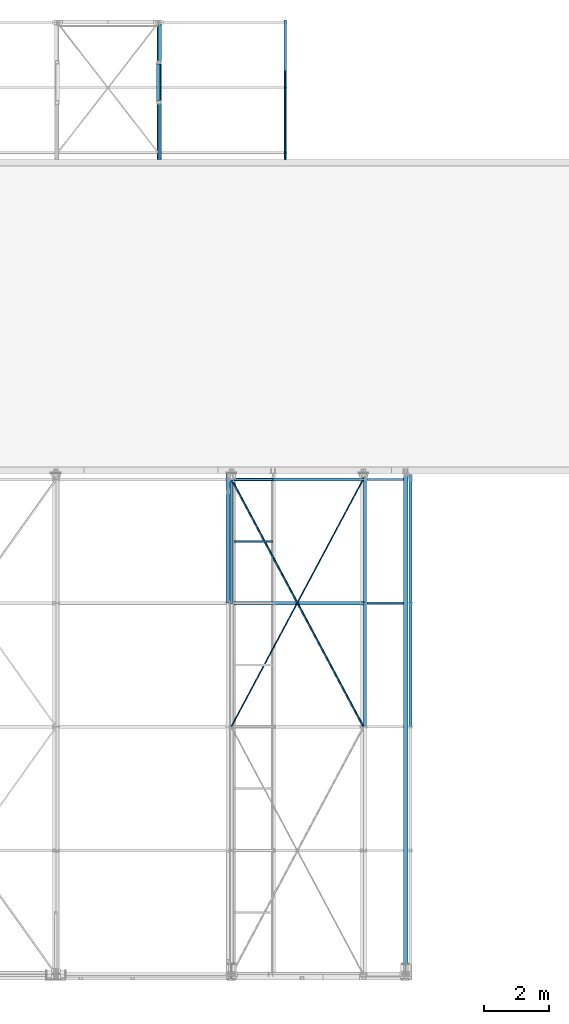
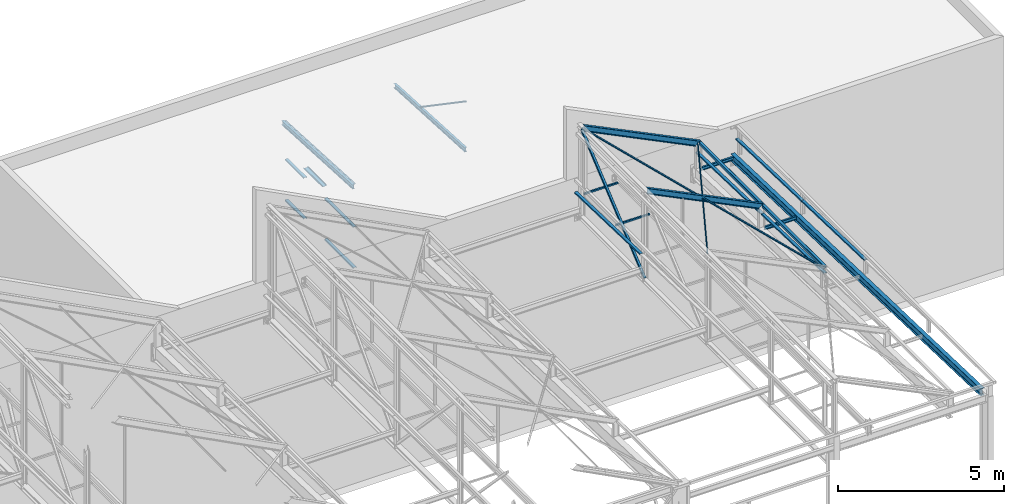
# One storey, part 37 of 123: 24 beams, 4 members, 28 elements without a shape of their own.
"""IFC2X3 building model written with IfcOpenShell, lengths in millimetres."""

from ifc_helpers import new_model, si_unit, frame, origin_with_axes, origin_2d_with_axis, place, context, subcontext, project, spatial, hollow_rectangle, hollow_circle, i_section, l_section, u_section, extrude, clip, halfspace, material, type_object, element, aggregate, save


model = new_model("IFC2X3")

# Units and contexts
model_context = context("Model", 3, precision=1e-05, world=origin_with_axes())
body_context = subcontext(model_context, "Body", "Model", "MODEL_VIEW")
ifc_project = project(units=[si_unit("LENGTHUNIT", "METRE", prefix="MILLI"), si_unit("AREAUNIT", "SQUARE_METRE"), si_unit("VOLUMEUNIT", "CUBIC_METRE"), si_unit("MASSUNIT", "GRAM", prefix="KILO"), si_unit("TIMEUNIT", "SECOND"), si_unit("PLANEANGLEUNIT", "RADIAN"), si_unit("SOLIDANGLEUNIT", "STERADIAN"), si_unit("THERMODYNAMICTEMPERATUREUNIT", "DEGREE_CELSIUS"), si_unit("LUMINOUSINTENSITYUNIT", "LUMEN")], contexts=[model_context])

# Site, building, storey
site_placement = place(None, origin_with_axes())
site = spatial("IfcSite", under=ifc_project, at=site_placement, Name="Undefined", CompositionType="ELEMENT")
building_placement = place(site_placement, origin_with_axes())
building = spatial("IfcBuilding", under=site, at=building_placement, Name="Undefined", CompositionType="ELEMENT")
storey_placement = place(building_placement, origin_with_axes())
storey = spatial("IfcBuildingStorey", under=building, at=storey_placement, Name="Undefined", CompositionType="ELEMENT", Elevation=0.0)

# Assembly, beam
assembly_1_placement = place(storey_placement, origin_with_axes())
assembly_1 = element("IfcElementAssembly", 1, at=assembly_1_placement, inside=storey, Name="Steel Assembly", AssemblyPlace="NOTDEFINED", PredefinedType="RIGID_FRAME")
ifc_material_1 = material(Name="STEEL/S235-E24")
beam_type_1 = type_object("IfcBeamType", Name="UPF-100*50*4", PredefinedType="NOTDEFINED")
beam_1_placement = place(assembly_1_placement, frame((39775.0000000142, 11400.0, 8171.98873515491), z_axis=(1.0, 0.0, 0.0), x_axis=(0.0, 0.999506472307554, -0.0314135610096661)))
beam_1 = element("IfcBeam", 2, at=beam_1_placement, type_object=beam_type_1, material=ifc_material_1, Name="LISSE CONTREBARDAGE", ObjectType="UPF-100*50*4", context=body_context, shape_type="Clipping", body=[
    clip(extrude(u_section(Depth=100.0, FlangeWidth=50.0, WebThickness=4.0, FlangeThickness=4.0, at=origin_2d_with_axis()), frame((3991.97014790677, 0.0, 0.0), z_axis=(-1.0, 0.0, 0.0), x_axis=(0.0, -1.0, 0.0)), (0.0, 0.0, 1.0), 3992.0), halfspace(frame((3962.74106143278, -25.0, 50.0), z_axis=(0.999506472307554, 0.0314135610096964, 0.0), x_axis=(0.0, 0.0, 1.0)), False)),
])
aggregate(assembly_1, [beam_1])

assembly_2_placement = place(storey_placement, origin_with_axes())
assembly_2 = element("IfcElementAssembly", 3, at=assembly_2_placement, inside=storey, Name="Steel Assembly", AssemblyPlace="NOTDEFINED", PredefinedType="RIGID_FRAME")
beam_2_placement = place(assembly_2_placement, frame((39775.0000000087, 7600.0, 8291.42237510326), z_axis=(1.0, 0.0, 0.0), x_axis=(0.0, 0.999506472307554, -0.0314135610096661)))
beam_2 = element("IfcBeam", 4, at=beam_2_placement, type_object=beam_type_1, material=ifc_material_1, Name="LISSE CONTREBARDAGE", ObjectType="UPF-100*50*4", context=body_context, shape_type="SweptSolid", body=[
    extrude(u_section(Depth=100.0, FlangeWidth=50.0, WebThickness=4.0, FlangeThickness=4.0, at=origin_2d_with_axis()), frame((3801.87643069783, 2.63808171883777e-14, 0.0), z_axis=(-1.0, 0.0, 0.0), x_axis=(0.0, -1.0, 0.0)), (0.0, 0.0, 1.0), 3801.9),
])
aggregate(assembly_2, [beam_2])

assembly_3_placement = place(storey_placement, origin_with_axes())
assembly_3 = element("IfcElementAssembly", 5, at=assembly_3_placement, inside=storey, Name="Steel Assembly", AssemblyPlace="NOTDEFINED", PredefinedType="RIGID_FRAME")
beam_3_placement = place(assembly_3_placement, frame((34163.5000000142, 11400.0, 8171.98873515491), z_axis=(1.0, 0.0, 0.0), x_axis=(0.0, 0.999506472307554, -0.0314135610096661)))
beam_3 = element("IfcBeam", 6, at=beam_3_placement, type_object=beam_type_1, material=ifc_material_1, Name="LISSE CONTREBARDAGE", ObjectType="UPF-100*50*4", context=body_context, shape_type="Clipping", body=[
    clip(extrude(u_section(Depth=100.0, FlangeWidth=50.0, WebThickness=4.0, FlangeThickness=4.0, at=origin_2d_with_axis()), frame((3991.97014790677, 0.0, 0.0), z_axis=(-1.0, 0.0, 0.0), x_axis=(0.0, -1.0, 0.0)), (0.0, 0.0, 1.0), 3992.0), halfspace(frame((3962.74106203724, -25.0, -50.0), z_axis=(0.999506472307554, 0.0314135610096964, 0.0), x_axis=(0.0, 0.0, 1.0)), False)),
])
aggregate(assembly_3, [beam_3])

assembly_4_placement = place(storey_placement, origin_with_axes())
assembly_4 = element("IfcElementAssembly", 7, at=assembly_4_placement, inside=storey, Name="Steel Assembly", AssemblyPlace="NOTDEFINED", PredefinedType="RIGID_FRAME")
beam_4_placement = place(assembly_4_placement, frame((38380.0000000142, 11400.0, 8171.98873515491), z_axis=(1.0, 0.0, 0.0), x_axis=(0.0, 0.999506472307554, -0.0314135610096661)))
beam_4 = element("IfcBeam", 8, at=beam_4_placement, type_object=beam_type_1, material=ifc_material_1, Name="LISSE CONTREBARDAGE", ObjectType="UPF-100*50*4", context=body_context, shape_type="Clipping", body=[
    clip(extrude(u_section(Depth=100.0, FlangeWidth=50.0, WebThickness=4.0, FlangeThickness=4.0, at=origin_2d_with_axis()), frame((3991.97014790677, 0.0, 0.0), z_axis=(-1.0, 0.0, 0.0), x_axis=(0.0, -1.0, 0.0)), (0.0, 0.0, 1.0), 3992.0), halfspace(frame((3962.74106203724, -25.0, -50.0), z_axis=(0.999506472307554, 0.0314135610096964, 0.0), x_axis=(0.0, 0.0, 1.0)), False)),
])
aggregate(assembly_4, [beam_4])

assembly_5_placement = place(storey_placement, origin_with_axes())
assembly_5 = element("IfcElementAssembly", 9, at=assembly_5_placement, inside=storey, Name="Steel Assembly", AssemblyPlace="NOTDEFINED", PredefinedType="RIGID_FRAME")
beam_5_placement = place(assembly_5_placement, frame((38380.0000000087, 7600.0, 8291.42237510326), z_axis=(1.0, 0.0, 0.0), x_axis=(0.0, 0.999506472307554, -0.0314135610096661)))
beam_5 = element("IfcBeam", 10, at=beam_5_placement, type_object=beam_type_1, material=ifc_material_1, Name="LISSE CONTREBARDAGE", ObjectType="UPF-100*50*4", context=body_context, shape_type="SweptSolid", body=[
    extrude(u_section(Depth=100.0, FlangeWidth=50.0, WebThickness=4.0, FlangeThickness=4.0, at=origin_2d_with_axis()), frame((3801.87643069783, 2.63808171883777e-14, 0.0), z_axis=(-1.0, 0.0, 0.0), x_axis=(0.0, -1.0, 0.0)), (0.0, 0.0, 1.0), 3801.9),
])
aggregate(assembly_5, [beam_5])

assembly_6_placement = place(storey_placement, origin_with_axes())
assembly_6 = element("IfcElementAssembly", 11, at=assembly_6_placement, inside=storey, Name="Steel Assembly", AssemblyPlace="NOTDEFINED", PredefinedType="RIGID_FRAME")
beam_6_placement = place(assembly_6_placement, frame((32069.9999688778, 28019.9999782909, 1625.0), z_axis=(1.0, 0.0, 0.0), x_axis=(0.0, 1.0, 0.0)))
beam_6 = element("IfcBeam", 12, at=beam_6_placement, type_object=beam_type_1, material=ifc_material_1, Name="LISSE", ObjectType="UPF-100*50*4", context=body_context, shape_type="SweptSolid", body=[
    extrude(u_section(Depth=100.0, FlangeWidth=50.0, WebThickness=4.0, FlangeThickness=4.0, at=origin_2d_with_axis()), frame((1140.00004341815, 0.0, 0.0), z_axis=(-1.0, 0.0, 0.0), x_axis=(0.0, -1.0, 0.0)), (0.0, 0.0, 1.0), 1140.0),
])
aggregate(assembly_6, [beam_6])

assembly_7_placement = place(storey_placement, origin_with_axes())
assembly_7 = element("IfcElementAssembly", 13, at=assembly_7_placement, inside=storey, Name="Steel Assembly", AssemblyPlace="NOTDEFINED", PredefinedType="RIGID_FRAME")
beam_7_placement = place(assembly_7_placement, frame((32069.9999688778, 25040.0, 1625.0), z_axis=(1.0, 0.0, 0.0), x_axis=(0.0, 1.0, 0.0)))
beam_7 = element("IfcBeam", 14, at=beam_7_placement, type_object=beam_type_1, material=ifc_material_1, Name="LISSE", ObjectType="UPF-100*50*4", context=body_context, shape_type="SweptSolid", body=[
    extrude(u_section(Depth=100.0, FlangeWidth=50.0, WebThickness=4.0, FlangeThickness=4.0, at=origin_2d_with_axis()), frame((1750.00002170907, 0.0, 0.0), z_axis=(-1.0, 0.0, 0.0), x_axis=(0.0, -1.0, 0.0)), (0.0, 0.0, 1.0), 1750.0),
])
aggregate(assembly_7, [beam_7])

assembly_8_placement = place(storey_placement, origin_with_axes())
assembly_8 = element("IfcElementAssembly", 15, at=assembly_8_placement, inside=storey, Name="Steel Assembly", AssemblyPlace="NOTDEFINED", PredefinedType="RIGID_FRAME")
beam_8_placement = place(assembly_8_placement, frame((32069.9999688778, 28019.9999782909, 124.999999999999), z_axis=(1.0, 0.0, 0.0), x_axis=(0.0, 1.0, 0.0)))
beam_8 = element("IfcBeam", 16, at=beam_8_placement, type_object=beam_type_1, material=ifc_material_1, Name="LISSE", ObjectType="UPF-100*50*4", context=body_context, shape_type="SweptSolid", body=[
    extrude(u_section(Depth=100.0, FlangeWidth=50.0, WebThickness=4.0, FlangeThickness=4.0, at=origin_2d_with_axis()), frame((1140.00004341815, 0.0, 0.0), z_axis=(-1.0, 0.0, 0.0), x_axis=(0.0, -1.0, 0.0)), (0.0, 0.0, 1.0), 1140.0),
])
aggregate(assembly_8, [beam_8])

assembly_9_placement = place(storey_placement, origin_with_axes())
assembly_9 = element("IfcElementAssembly", 17, at=assembly_9_placement, inside=storey, Name="Steel Assembly", AssemblyPlace="NOTDEFINED", PredefinedType="RIGID_FRAME")
beam_9_placement = place(assembly_9_placement, frame((32069.9999688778, 25040.0, 124.999999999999), z_axis=(1.0, 0.0, 0.0), x_axis=(0.0, 1.0, 0.0)))
beam_9 = element("IfcBeam", 18, at=beam_9_placement, type_object=beam_type_1, material=ifc_material_1, Name="LISSE", ObjectType="UPF-100*50*4", context=body_context, shape_type="SweptSolid", body=[
    extrude(u_section(Depth=100.0, FlangeWidth=50.0, WebThickness=4.0, FlangeThickness=4.0, at=origin_2d_with_axis()), frame((1750.00002170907, 0.0, 0.0), z_axis=(-1.0, 0.0, 0.0), x_axis=(0.0, -1.0, 0.0)), (0.0, 0.0, 1.0), 1750.0),
])
aggregate(assembly_9, [beam_9])

assembly_10_placement = place(storey_placement, origin_with_axes())
assembly_10 = element("IfcElementAssembly", 19, at=assembly_10_placement, inside=storey, Name="Steel Assembly", AssemblyPlace="NOTDEFINED", PredefinedType="RIGID_FRAME")
beam_10_placement = place(assembly_10_placement, frame((39775.0000000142, 11399.6436312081, 8171.98873515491), z_axis=(1.0, 0.0, 0.0), x_axis=(0.0, 0.999506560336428, -0.0314107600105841)))
beam_10 = element("IfcBeam", 20, at=beam_10_placement, type_object=beam_type_1, material=ifc_material_1, Name="LISSE CONTREBARDAGE", ObjectType="UPF-100*50*4", context=body_context, shape_type="Clipping", body=[
    clip(extrude(u_section(Depth=100.0, FlangeWidth=50.0, WebThickness=4.0, FlangeThickness=4.0, at=origin_2d_with_axis()), frame((3964.88100373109, 0.0, 0.0), z_axis=(-1.0, 0.0, 0.0), x_axis=(0.0, -1.0, 0.0)), (0.0, 0.0, 1.0), 3964.9), halfspace(frame((3960.76719072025, 47.1525613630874, -77.5000000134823), z_axis=(-0.999390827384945, -0.0348994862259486, 0.0), x_axis=(0.0, 0.0, 1.0)), True)),
])
aggregate(assembly_10, [beam_10])

assembly_11_placement = place(storey_placement, origin_with_axes())
assembly_11 = element("IfcElementAssembly", 21, at=assembly_11_placement, inside=storey, Name="Steel Assembly", AssemblyPlace="NOTDEFINED", PredefinedType="RIGID_FRAME")
beam_11_placement = place(assembly_11_placement, frame((39775.0000000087, 7599.20357783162, 8291.42237510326), z_axis=(1.0, 0.0, 0.0), x_axis=(0.0, 0.999506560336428, -0.0314107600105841)))
beam_11 = element("IfcBeam", 22, at=beam_11_placement, type_object=beam_type_1, material=ifc_material_1, Name="LISSE CONTREBARDAGE", ObjectType="UPF-100*50*4", context=body_context, shape_type="SweptSolid", body=[
    extrude(u_section(Depth=100.0, FlangeWidth=50.0, WebThickness=4.0, FlangeThickness=4.0, at=origin_2d_with_axis()), frame((3802.31626691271, 0.0, 0.0), z_axis=(-1.0, 0.0, 0.0), x_axis=(0.0, -1.0, 0.0)), (0.0, 0.0, 1.0), 3802.3),
])
aggregate(assembly_11, [beam_11])

assembly_12_placement = place(storey_placement, origin_with_axes())
assembly_12 = element("IfcElementAssembly", 23, at=assembly_12_placement, inside=storey, Name="Steel Assembly", AssemblyPlace="NOTDEFINED", PredefinedType="RIGID_FRAME")
beam_type_2 = type_object("IfcBeamType", Name="TUBE-C-60*60*3", PredefinedType="NOTDEFINED")
beam_12_placement = place(assembly_12_placement, frame((34351.5001701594, 13300.0, 8015.0), z_axis=(0.0, -1.0, 0.0), x_axis=(1.0, 0.0, 0.0)))
beam_12 = element("IfcBeam", 24, at=beam_12_placement, type_object=beam_type_2, material=ifc_material_1, Name="SOLIVE", ObjectType="TUBE-C-60*60*3", context=body_context, shape_type="SweptSolid", body=[
    extrude(hollow_rectangle(XDim=60.0, YDim=60.0, WallThickness=3.0, InnerFilletRadius=3.0, OuterFilletRadius=6.0, at=origin_2d_with_axis()), frame((1194.99154388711, 0.0, 0.0), z_axis=(-1.0, 0.0, 0.0), x_axis=(0.0, -1.0, 0.0)), (0.0, 0.0, 1.0), 1195.0),
])
aggregate(assembly_12, [beam_12])

assembly_13_placement = place(storey_placement, origin_with_axes())
assembly_13 = element("IfcElementAssembly", 25, at=assembly_13_placement, inside=storey, Name="Steel Assembly", AssemblyPlace="NOTDEFINED", PredefinedType="RIGID_FRAME")
beam_13_placement = place(assembly_13_placement, frame((34351.5001701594, 15200.0, 8015.0), z_axis=(0.0, -1.0, 0.0), x_axis=(1.0, 0.0, 0.0)))
beam_13 = element("IfcBeam", 26, at=beam_13_placement, type_object=beam_type_2, material=ifc_material_1, Name="SOLIVE", ObjectType="TUBE-C-60*60*3", context=body_context, shape_type="SweptSolid", body=[
    extrude(hollow_rectangle(XDim=60.0, YDim=60.0, WallThickness=3.0, InnerFilletRadius=3.0, OuterFilletRadius=6.0, at=origin_2d_with_axis()), frame((1194.99154388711, 0.0, 0.0), z_axis=(-1.0, 0.0, 0.0), x_axis=(0.0, -1.0, 0.0)), (0.0, 0.0, 1.0), 1195.0),
])
aggregate(assembly_13, [beam_13])

assembly_14_placement = place(storey_placement, origin_with_axes())
assembly_14 = element("IfcElementAssembly", 27, at=assembly_14_placement, inside=storey, Name="Steel Assembly", AssemblyPlace="NOTDEFINED", PredefinedType="RIGID_FRAME")
beam_type_3 = type_object("IfcBeamType", Name="TUBE-C-100*100*4", PredefinedType="NOTDEFINED")
beam_14_placement = place(assembly_14_placement, frame((38380.0, 11446.0, 8500.0), z_axis=(0.0, 0.0, 1.0), x_axis=(0.0, 1.0, 0.0)))
beam_14 = element("IfcBeam", 28, at=beam_14_placement, type_object=beam_type_3, material=ifc_material_1, Name="LISSE ACROTERE", ObjectType="TUBE-C-100*100*4", context=body_context, shape_type="SweptSolid", body=[
    extrude(hollow_rectangle(XDim=100.0, YDim=100.0, WallThickness=4.0, InnerFilletRadius=4.0, OuterFilletRadius=8.0, at=origin_2d_with_axis()), frame((3708.0, 0.0, 0.0), z_axis=(-1.0, 0.0, 0.0), x_axis=(0.0, -1.0, 0.0)), (0.0, 0.0, 1.0), 3708.0),
])
aggregate(assembly_14, [beam_14])

assembly_15_placement = place(storey_placement, origin_with_axes())
assembly_15 = element("IfcElementAssembly", 29, at=assembly_15_placement, inside=storey, Name="Steel Assembly", AssemblyPlace="NOTDEFINED", PredefinedType="RIGID_FRAME")
beam_15_placement = place(assembly_15_placement, frame((38380.0, 7646.0, 8500.0), z_axis=(0.0, 0.0, 1.0), x_axis=(0.0, 1.0, 0.0)))
beam_15 = element("IfcBeam", 30, at=beam_15_placement, type_object=beam_type_3, material=ifc_material_1, Name="LISSE ACROTERE", ObjectType="TUBE-C-100*100*4", context=body_context, shape_type="SweptSolid", body=[
    extrude(hollow_rectangle(XDim=100.0, YDim=100.0, WallThickness=4.0, InnerFilletRadius=4.0, OuterFilletRadius=8.0, at=origin_2d_with_axis()), frame((3708.0, 0.0, 0.0), z_axis=(-1.0, 0.0, 0.0), x_axis=(0.0, -1.0, 0.0)), (0.0, 0.0, 1.0), 3708.0),
])
aggregate(assembly_15, [beam_15])

# Assembly, member
assembly_16_placement = place(storey_placement, origin_with_axes())
assembly_16 = element("IfcElementAssembly", 31, at=assembly_16_placement, inside=storey, Name="Steel Assembly", AssemblyPlace="NOTDEFINED", PredefinedType="RIGID_FRAME")
member_type_1 = type_object("IfcMemberType", Name="TUBE-C-80*80*4", PredefinedType="NOTDEFINED")
member_1_placement = place(assembly_16_placement, frame((34280.0000000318, 15200.0000000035, 10423.0), z_axis=(-1.0, 0.0, 0.0), x_axis=(0.0, -0.767591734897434, -0.640939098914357)))
member_1 = element("IfcMember", 32, at=member_1_placement, type_object=member_type_1, material=ifc_material_1, Name="DIAGONALE", ObjectType="TUBE-C-80*80*4", context=body_context, shape_type="SweptSolid", body=[
    extrude(hollow_rectangle(XDim=80.0, YDim=80.0, WallThickness=4.0, InnerFilletRadius=4.0, OuterFilletRadius=8.0, at=origin_2d_with_axis()), frame((4950.5483534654, 0.0, 0.0), z_axis=(-1.0, 0.0, 0.0), x_axis=(0.0, -1.0, 0.0)), (0.0, 0.0, 1.0), 4950.5),
])
aggregate(assembly_16, [member_1])

# Assembly, beam
assembly_17_placement = place(storey_placement, origin_with_axes())
assembly_17 = element("IfcElementAssembly", 33, at=assembly_17_placement, inside=storey, Name="Steel Assembly", AssemblyPlace="NOTDEFINED", PredefinedType="RIGID_FRAME")
beam_type_4 = type_object("IfcBeamType", Name="UPF-150*50*5", PredefinedType="NOTDEFINED")
beam_16_placement = place(assembly_17_placement, frame((32044.9999688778, 26840.0000217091, 2065.0), z_axis=(-1.0, 0.0, 0.0), x_axis=(0.0, 1.0, 0.0)))
beam_16 = element("IfcBeam", 34, at=beam_16_placement, type_object=beam_type_4, material=ifc_material_1, Name="LINTEAU", ObjectType="UPF-150*50*5", context=body_context, shape_type="SweptSolid", body=[
    extrude(u_section(Depth=150.0, FlangeWidth=50.0, WebThickness=5.0, FlangeThickness=5.0, at=origin_2d_with_axis()), frame((1129.99995658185, 0.0, 0.0), z_axis=(-1.0, 0.0, 0.0), x_axis=(0.0, -1.0, 0.0)), (0.0, 0.0, 1.0), 1130.0),
])
aggregate(assembly_17, [beam_16])

assembly_18_placement = place(storey_placement, origin_with_axes())
assembly_18 = element("IfcElementAssembly", 35, at=assembly_18_placement, inside=storey, Name="Steel Assembly", AssemblyPlace="NOTDEFINED", PredefinedType="RIGID_FRAME")
beam_type_5 = type_object("IfcBeamType", Name="L40*4", PredefinedType="NOTDEFINED")
beam_17_placement = place(assembly_18_placement, frame((32099.9999688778, 25076.6562852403, 3178.05248439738), z_axis=(0.0, -0.052309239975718, -0.99863093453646), x_axis=(0.0, 0.998630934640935, -0.0523092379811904)))
beam_17 = element("IfcBeam", 36, at=beam_17_placement, type_object=beam_type_5, material=ifc_material_1, Name="STABILITE CVT", ObjectType="L40*4", context=body_context, shape_type="SweptSolid", body=[
    extrude(l_section(Depth=40.0, Width=40.0, Thickness=4.0, FilletRadius=6.0, EdgeRadius=3.0, at=origin_2d_with_axis()), frame((4200.00376909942, 0.0, -2.91433805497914e-14), z_axis=(-1.0, 0.0, 0.0), x_axis=(0.0, -1.0, 0.0)), (0.0, 0.0, 1.0), 4200.0),
])
aggregate(assembly_18, [beam_17])

# Assembly, member
assembly_19_placement = place(storey_placement, origin_with_axes())
assembly_19 = element("IfcElementAssembly", 37, at=assembly_19_placement, inside=storey, Name="Steel Assembly", AssemblyPlace="NOTDEFINED", PredefinedType="RIGID_FRAME")
member_type_2 = type_object("IfcMemberType", Name="TUBE-60.3*3.2", PredefinedType="NOTDEFINED")
member_2_placement = place(assembly_19_placement, frame((35930.0000002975, 25039.9999999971, 4900.0), z_axis=(-1.0, 0.0, 0.0), x_axis=(0.0, 0.826153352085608, -0.563445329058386)))
member_2 = element("IfcMember", 38, at=member_2_placement, type_object=member_type_2, material=ifc_material_1, Name="BUTON", ObjectType="TUBE-60.3*3.2", context=body_context, shape_type="SweptSolid", body=[
    extrude(hollow_circle(Radius=30.14999962, WallThickness=3.200000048, at=origin_2d_with_axis()), frame((3268.15837953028, 0.0, 0.0), z_axis=(-1.0, 0.0, 0.0), x_axis=(0.0, -1.0, 0.0)), (0.0, 0.0, 1.0), 3268.2),
])
aggregate(assembly_19, [member_2])

# Assembly, beam
assembly_20_placement = place(storey_placement, origin_with_axes())
assembly_20 = element("IfcElementAssembly", 39, at=assembly_20_placement, inside=storey, Name="Steel Assembly", AssemblyPlace="NOTDEFINED", PredefinedType="RIGID_FRAME")
ifc_material_2 = material(Name="STEEL/S275-E28")
beam_type_6 = type_object("IfcBeamType", Name="IPE160", PredefinedType="NOTDEFINED")
beam_18_placement = place(assembly_20_placement, frame((35930.0000002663, 25035.8151340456, 3120.10952522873), z_axis=(0.0, 0.0523092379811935, 0.998630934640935), x_axis=(0.0, 0.998630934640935, -0.0523092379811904)))
beam_18 = element("IfcBeam", 40, at=beam_18_placement, type_object=beam_type_6, material=ifc_material_2, Name="TRAVERSE", ObjectType="IPE160", context=body_context, shape_type="Clipping", body=[
    clip(clip(extrude(i_section(OverallWidth=82.0, OverallDepth=160.0, WebThickness=5.0, FlangeThickness=7.400000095, FilletRadius=9.0, at=origin_2d_with_axis()), frame((4298.52302074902, 3.63797880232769e-12, 0.0), z_axis=(-1.0, 0.0, 0.0), x_axis=(0.0, -1.0, 0.0)), (0.0, 0.0, 1.0), 4302.8), halfspace(frame((4294.24873399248, 1.79522248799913e-06, -79.9999999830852), z_axis=(-0.998630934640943, -9.58451038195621e-12, -0.0523092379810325), x_axis=(0.0, -1.0, 0.0)), True)), halfspace(frame((5.37601310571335, -4.00323187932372e-08, -22.6329802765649), z_axis=(-0.998630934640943, -9.58451038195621e-12, -0.0523092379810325), x_axis=(0.0, -1.0, 0.0)), False)),
])
aggregate(assembly_20, [beam_18])

assembly_21_placement = place(storey_placement, origin_with_axes())
assembly_21 = element("IfcElementAssembly", 41, at=assembly_21_placement, inside=storey, Name="Steel Assembly", AssemblyPlace="NOTDEFINED", PredefinedType="RIGID_FRAME")
beam_19_placement = place(assembly_21_placement, frame((32030.0000002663, 25035.8151340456, 3120.10952522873), z_axis=(0.0, 0.0523092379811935, 0.998630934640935), x_axis=(0.0, 0.998630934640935, -0.0523092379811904)))
beam_19 = element("IfcBeam", 42, at=beam_19_placement, type_object=beam_type_6, material=ifc_material_2, Name="TRAVERSE", ObjectType="IPE160", context=body_context, shape_type="Clipping", body=[
    clip(clip(extrude(i_section(OverallWidth=82.0, OverallDepth=160.0, WebThickness=5.0, FlangeThickness=7.400000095, FilletRadius=9.0, at=origin_2d_with_axis()), frame((4298.52302074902, 3.63797880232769e-12, 0.0), z_axis=(-1.0, 0.0, 0.0), x_axis=(0.0, -1.0, 0.0)), (0.0, 0.0, 1.0), 4302.8), halfspace(frame((4294.24873399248, 1.79522248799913e-06, -79.9999999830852), z_axis=(-0.998630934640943, -9.58451038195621e-12, -0.0523092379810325), x_axis=(0.0, -1.0, 0.0)), True)), halfspace(frame((5.37601310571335, -4.00323187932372e-08, -22.6329802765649), z_axis=(-0.998630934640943, -9.58451038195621e-12, -0.0523092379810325), x_axis=(0.0, -1.0, 0.0)), False)),
])
aggregate(assembly_21, [beam_19])

assembly_22_placement = place(storey_placement, origin_with_axes())
assembly_22 = element("IfcElementAssembly", 43, at=assembly_22_placement, inside=storey, Name="Steel Assembly", AssemblyPlace="NOTDEFINED", PredefinedType="RIGID_FRAME")
beam_type_7 = type_object("IfcBeamType", Name="IPE120", PredefinedType="NOTDEFINED")
beam_20_placement = place(assembly_22_placement, frame((38434.9999991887, 15200.0, 7512.29105498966), z_axis=(0.0, 0.0314107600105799, 0.999506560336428), x_axis=(1.0, 0.0, 0.0)))
beam_20 = element("IfcBeam", 44, at=beam_20_placement, type_object=beam_type_7, material=ifc_material_2, Name="PANNE", ObjectType="IPE120", context=body_context, shape_type="SweptSolid", body=[
    extrude(i_section(OverallWidth=64.0, OverallDepth=120.0, WebThickness=4.400000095, FlangeThickness=6.300000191, FilletRadius=7.0, at=origin_2d_with_axis()), frame((1120.00000000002, 0.0, 0.0), z_axis=(-1.0, 0.0, 0.0), x_axis=(0.0, -1.0, 0.0)), (0.0, 0.0, 1.0), 1120.0),
])
aggregate(assembly_22, [beam_20])

assembly_23_placement = place(storey_placement, origin_with_axes())
assembly_23 = element("IfcElementAssembly", 45, at=assembly_23_placement, inside=storey, Name="Steel Assembly", AssemblyPlace="NOTDEFINED", PredefinedType="RIGID_FRAME")
beam_21_placement = place(assembly_23_placement, frame((38435.0, 11399.9999999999, 7631.71089231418), z_axis=(0.0, 0.0314107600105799, 0.999506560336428), x_axis=(1.0, 0.0, 0.0)))
beam_21 = element("IfcBeam", 46, at=beam_21_placement, type_object=beam_type_7, material=ifc_material_2, Name="PANNE", ObjectType="IPE120", context=body_context, shape_type="SweptSolid", body=[
    extrude(i_section(OverallWidth=64.0, OverallDepth=120.0, WebThickness=4.400000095, FlangeThickness=6.300000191, FilletRadius=7.0, at=origin_2d_with_axis()), frame((1120.00000000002, 0.0, 0.0), z_axis=(-1.0, 0.0, 0.0), x_axis=(0.0, -1.0, 0.0)), (0.0, 0.0, 1.0), 1120.0),
])
aggregate(assembly_23, [beam_21])

assembly_24_placement = place(storey_placement, origin_with_axes())
assembly_24 = element("IfcElementAssembly", 47, at=assembly_24_placement, inside=storey, Name="Steel Assembly", AssemblyPlace="NOTDEFINED", PredefinedType="RIGID_FRAME")
beam_type_8 = type_object("IfcBeamType", Name="L50*5", PredefinedType="NOTDEFINED")
beam_22_placement = place(assembly_24_placement, frame((34280.0000024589, 15199.9999999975, 10478.9834534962), z_axis=(0.441220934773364, -7.0000000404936e-09, 0.897398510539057), x_axis=(0.458197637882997, -0.859827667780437, -0.225280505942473)))
beam_22 = element("IfcBeam", 48, at=beam_22_placement, type_object=beam_type_8, material=ifc_material_1, Name="STABILITE CVT", ObjectType="L50*5", context=body_context, shape_type="SweptSolid", body=[
    extrude(l_section(Depth=50.0, Width=50.0, Thickness=5.0, FilletRadius=7.0, EdgeRadius=3.5, at=origin_2d_with_axis()), frame((8838.98051436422, -4.90661984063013e-13, -3.63797880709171e-12), z_axis=(-1.0, 0.0, 0.0), x_axis=(0.0, -1.0, 0.0)), (0.0, 0.0, 1.0), 8839.0),
])
aggregate(assembly_24, [beam_22])

assembly_25_placement = place(storey_placement, origin_with_axes())
assembly_25 = element("IfcElementAssembly", 49, at=assembly_25_placement, inside=storey, Name="Steel Assembly", AssemblyPlace="NOTDEFINED", PredefinedType="RIGID_FRAME")
beam_23_placement = place(assembly_25_placement, frame((34280.0000024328, 7600.00000000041, 10478.9834534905), z_axis=(0.441220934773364, -7.0000000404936e-09, 0.897398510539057), x_axis=(0.458197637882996, 0.859827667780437, -0.225280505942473)))
beam_23 = element("IfcBeam", 50, at=beam_23_placement, type_object=beam_type_8, material=ifc_material_1, Name="STABILITE CVT", ObjectType="L50*5", context=body_context, shape_type="SweptSolid", body=[
    extrude(l_section(Depth=50.0, Width=50.0, Thickness=5.0, FilletRadius=7.0, EdgeRadius=3.5, at=origin_2d_with_axis()), frame((8838.98051436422, -4.90661984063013e-13, -3.63797880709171e-12), z_axis=(-1.0, 0.0, 0.0), x_axis=(0.0, -1.0, 0.0)), (0.0, 0.0, 1.0), 8839.0),
])
aggregate(assembly_25, [beam_23])

assembly_26_placement = place(storey_placement, origin_with_axes())
assembly_26 = element("IfcElementAssembly", 51, at=assembly_26_placement, inside=storey, Name="Steel Assembly", AssemblyPlace="NOTDEFINED", PredefinedType="RIGID_FRAME")
beam_type_9 = type_object("IfcBeamType", Name="IPE270", PredefinedType="NOTDEFINED")
beam_24_placement = place(assembly_26_placement, frame((39630.0000000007, -4.24045248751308, 7915.06661434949), z_axis=(0.0, -0.0314107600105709, -0.999506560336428), x_axis=(0.0, 0.999506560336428, -0.0314107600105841)))
beam_24 = element("IfcBeam", 52, at=beam_24_placement, type_object=beam_type_9, material=ifc_material_2, Name="TRAVERSE", ObjectType="IPE270", context=body_context, shape_type="Clipping", body=[
    clip(clip(extrude(i_section(OverallWidth=135.0, OverallDepth=270.0, WebThickness=6.599999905, FlangeThickness=10.19999981, FilletRadius=15.0, at=origin_2d_with_axis()), frame((15399.3814453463, 0.0, 1.06854674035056e-13), z_axis=(-1.0, 0.0, 0.0), x_axis=(0.0, -1.0, 0.0)), (0.0, 0.0, 1.0), 15399.4), halfspace(frame((15369.3625943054, -67.499999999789, -135.000000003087), z_axis=(0.999390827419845, 0.0, -0.0348994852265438), x_axis=(0.0348994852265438, 0.0, 0.999390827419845)), False)), halfspace(frame((320.195054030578, 95.0, -135.000000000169), z_axis=(-0.999390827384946, 0.0, 0.0348994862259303), x_axis=(0.0348994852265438, 0.0, 0.999390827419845)), False)),
])
aggregate(assembly_26, [beam_24])

# Assembly, member
assembly_27_placement = place(storey_placement, origin_with_axes())
assembly_27 = element("IfcElementAssembly", 53, at=assembly_27_placement, inside=storey, Name="Steel Assembly", AssemblyPlace="NOTDEFINED", PredefinedType="RIGID_FRAME")
member_type_3 = type_object("IfcMemberType", Name="IPE200", PredefinedType="NOTDEFINED")
member_3_placement = place(assembly_27_placement, frame((34305.8779065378, 15199.9999999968, 10466.2601489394), z_axis=(0.441220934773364, -7.0000000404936e-09, 0.897398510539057), x_axis=(0.897398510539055, -1.49999999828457e-08, -0.441220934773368)))
member_3 = element("IfcMember", 54, at=member_3_placement, type_object=member_type_3, material=ifc_material_2, Name="TRAVERSE SHED", ObjectType="IPE200", context=body_context, shape_type="Clipping", body=[
    clip(clip(extrude(i_section(OverallWidth=100.0, OverallDepth=200.0, WebThickness=5.599999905, FlangeThickness=8.5, FilletRadius=12.0, at=origin_2d_with_axis()), frame((4652.25219148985, 0.0, 0.0), z_axis=(-1.0, 0.0, 0.0), x_axis=(0.0, -1.0, 0.0)), (0.0, 0.0, 1.0), 4771.1), halfspace(frame((4421.9420250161, -15199.9999999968, -100.0), z_axis=(0.848887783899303, 0.0, -0.528573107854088), x_axis=(0.0, -1.0, 0.0)), False)), halfspace(frame((0.0, 0.0, 100.0), z_axis=(-0.89739851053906, 0.0, -0.44122093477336), x_axis=(0.0, -1.0, 0.0)), False)),
])
aggregate(assembly_27, [member_3])

assembly_28_placement = place(storey_placement, origin_with_axes())
assembly_28 = element("IfcElementAssembly", 55, at=assembly_28_placement, inside=storey, Name="Steel Assembly", AssemblyPlace="NOTDEFINED", PredefinedType="RIGID_FRAME")
member_4_placement = place(assembly_28_placement, frame((34305.8779065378, 11399.9999999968, 10466.2601489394), z_axis=(0.441220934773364, -7.0000000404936e-09, 0.897398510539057), x_axis=(0.897398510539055, -1.49999999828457e-08, -0.441220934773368)))
member_4 = element("IfcMember", 56, at=member_4_placement, type_object=member_type_3, material=ifc_material_2, Name="TRAVERSE SHED", ObjectType="IPE200", context=body_context, shape_type="Clipping", body=[
    clip(clip(extrude(i_section(OverallWidth=100.0, OverallDepth=200.0, WebThickness=5.599999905, FlangeThickness=8.5, FilletRadius=12.0, at=origin_2d_with_axis()), frame((4652.25219148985, 0.0, 0.0), z_axis=(-1.0, 0.0, 0.0), x_axis=(0.0, -1.0, 0.0)), (0.0, 0.0, 1.0), 4771.1), halfspace(frame((4421.9420250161, -11399.9999999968, -100.0), z_axis=(0.848887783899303, 0.0, -0.528573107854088), x_axis=(0.0, -1.0, 0.0)), False)), halfspace(frame((0.0, 0.0, 100.0), z_axis=(-0.89739851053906, 0.0, -0.44122093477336), x_axis=(0.0, -1.0, 0.0)), False)),
])
aggregate(assembly_28, [member_4])

save(model, "model.ifc")
